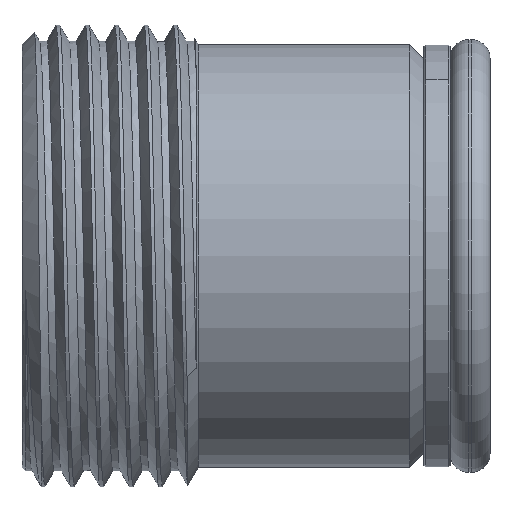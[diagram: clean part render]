
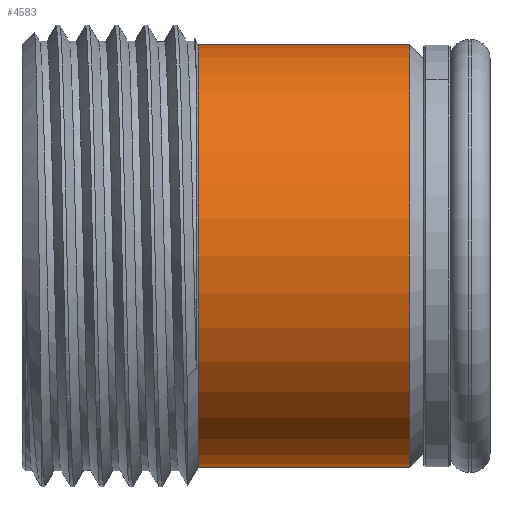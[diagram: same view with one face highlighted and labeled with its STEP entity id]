
A CAD part, front view. The second image highlights one B-rep face of the part: STEP entity #4583.
In plain terms, the highlighted cylindrical face has radius 15.24 mm (diameter 30.48 mm), a partial arc.
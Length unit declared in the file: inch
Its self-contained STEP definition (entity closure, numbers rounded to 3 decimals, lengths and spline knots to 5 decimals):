
#30 = VECTOR ( 'NONE', #4799, 39.37008 ) ;
#291 = DIRECTION ( 'NONE',  ( -1., 0., 0. ) ) ;
#298 = VERTEX_POINT ( 'NONE', #7228 ) ;
#530 = VERTEX_POINT ( 'NONE', #8016 ) ;
#868 = CIRCLE ( 'NONE', #6938, 0.6 ) ;
#990 = CARTESIAN_POINT ( 'NONE',  ( 27.04728, 34.62029, 50.85214 ) ) ;
#1149 = ORIENTED_EDGE ( 'NONE', *, *, #2912, .T. ) ;
#1151 = ORIENTED_EDGE ( 'NONE', *, *, #2013, .F. ) ;
#1414 = VERTEX_POINT ( 'NONE', #7935 ) ;
#1679 = DIRECTION ( 'NONE',  ( -1., 0., 0. ) ) ;
#1759 = CARTESIAN_POINT ( 'NONE',  ( 25.94728, 34.62029, 50.25214 ) ) ;
#2013 = EDGE_CURVE ( 'NONE', #2955, #530, #4182, .T. ) ;
#2290 = DIRECTION ( 'NONE',  ( 0., 0., 1. ) ) ;
#2542 = CARTESIAN_POINT ( 'NONE',  ( 26.44728, 34.62029, 50.85214 ) ) ;
#2857 = CARTESIAN_POINT ( 'NONE',  ( 26.44728, 34.62029, 50.25214 ) ) ;
#2912 = EDGE_CURVE ( 'NONE', #1414, #530, #4178, .T. ) ;
#2955 = VERTEX_POINT ( 'NONE', #2857 ) ;
#3134 = VECTOR ( 'NONE', #1679, 39.37008 ) ;
#3591 = LINE ( 'NONE', #1759, #3134 ) ;
#4178 = LINE ( 'NONE', #6265, #30 ) ;
#4182 = CIRCLE ( 'NONE', #6151, 0.6 ) ;
#4468 = EDGE_CURVE ( 'NONE', #298, #2955, #3591, .T. ) ;
#4583 = ADVANCED_FACE ( 'NONE', ( #6038 ), #5563, .T. ) ;
#4682 = ORIENTED_EDGE ( 'NONE', *, *, #6290, .T. ) ;
#4799 = DIRECTION ( 'NONE',  ( -1., 0., 0. ) ) ;
#5524 = DIRECTION ( 'NONE',  ( -1., 0., 0. ) ) ;
#5563 = CYLINDRICAL_SURFACE ( 'NONE', #7463, 0.6 ) ;
#5714 = DIRECTION ( 'NONE',  ( -1., 0., 0. ) ) ;
#5979 = ORIENTED_EDGE ( 'NONE', *, *, #4468, .F. ) ;
#6038 = FACE_OUTER_BOUND ( 'NONE', #7927, .T. ) ;
#6151 = AXIS2_PLACEMENT_3D ( 'NONE', #2542, #5714, #7083 ) ;
#6265 = CARTESIAN_POINT ( 'NONE',  ( 25.94728, 34.62029, 51.45214 ) ) ;
#6290 = EDGE_CURVE ( 'NONE', #298, #1414, #868, .T. ) ;
#6938 = AXIS2_PLACEMENT_3D ( 'NONE', #990, #291, #7904 ) ;
#7083 = DIRECTION ( 'NONE',  ( 0., 0., 1. ) ) ;
#7228 = CARTESIAN_POINT ( 'NONE',  ( 27.04728, 34.62029, 50.25214 ) ) ;
#7463 = AXIS2_PLACEMENT_3D ( 'NONE', #7898, #5524, #2290 ) ;
#7898 = CARTESIAN_POINT ( 'NONE',  ( 25.94728, 34.62029, 50.85214 ) ) ;
#7904 = DIRECTION ( 'NONE',  ( 0., 0., 1. ) ) ;
#7927 = EDGE_LOOP ( 'NONE', ( #5979, #4682, #1149, #1151 ) ) ;
#7935 = CARTESIAN_POINT ( 'NONE',  ( 27.04728, 34.62029, 51.45214 ) ) ;
#8016 = CARTESIAN_POINT ( 'NONE',  ( 26.44728, 34.62029, 51.45214 ) ) ;
